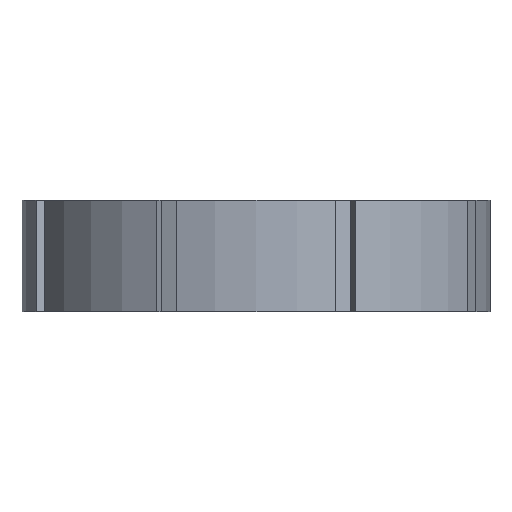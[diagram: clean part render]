
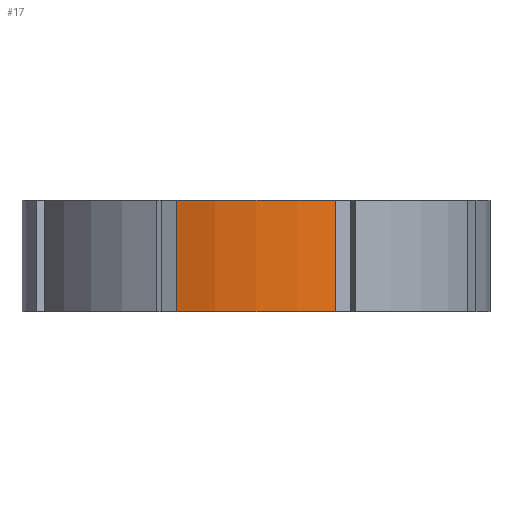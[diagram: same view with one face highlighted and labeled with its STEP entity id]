
A CAD part, left-side view. The second image highlights one B-rep face of the part: STEP entity #17.
In plain terms, the highlighted cylindrical face has radius 67 mm (diameter 134 mm), a partial arc.
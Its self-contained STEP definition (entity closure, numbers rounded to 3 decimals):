
#17 = ADVANCED_FACE('',(#18),#33,.T.);
#18 = FACE_BOUND('',#19,.F.);
#19 = EDGE_LOOP('',(#20,#56,#82,#115));
#20 = ORIENTED_EDGE('',*,*,#21,.F.);
#21 = EDGE_CURVE('',#22,#24,#26,.T.);
#22 = VERTEX_POINT('',#23);
#23 = CARTESIAN_POINT('',(-62.986,22.842,-16.));
#24 = VERTEX_POINT('',#25);
#25 = CARTESIAN_POINT('',(-62.986,-22.842,-16.));
#26 = SURFACE_CURVE('',#27,(#32,#44),.PCURVE_S1.);
#27 = CIRCLE('',#28,67.);
#28 = AXIS2_PLACEMENT_3D('',#29,#30,#31);
#29 = CARTESIAN_POINT('',(0.,0.,-16.));
#30 = DIRECTION('',(0.,0.,1.));
#31 = DIRECTION('',(-0.94,0.341,0.));
#32 = PCURVE('',#33,#38);
#33 = CYLINDRICAL_SURFACE('',#34,67.);
#34 = AXIS2_PLACEMENT_3D('',#35,#36,#37);
#35 = CARTESIAN_POINT('',(0.,0.,-16.));
#36 = DIRECTION('',(-0.,-0.,-1.));
#37 = DIRECTION('',(1.,0.,0.));
#38 = DEFINITIONAL_REPRESENTATION('',(#39),#43);
#39 = LINE('',#40,#41);
#40 = CARTESIAN_POINT('',(-2.794,0.));
#41 = VECTOR('',#42,1.);
#42 = DIRECTION('',(-1.,0.));
#43 = ( GEOMETRIC_REPRESENTATION_CONTEXT(2) 
PARAMETRIC_REPRESENTATION_CONTEXT() REPRESENTATION_CONTEXT('2D SPACE',''
  ) );
#44 = PCURVE('',#45,#50);
#45 = PLANE('',#46);
#46 = AXIS2_PLACEMENT_3D('',#47,#48,#49);
#47 = CARTESIAN_POINT('',(0.,0.,-16.));
#48 = DIRECTION('',(0.,0.,1.));
#49 = DIRECTION('',(1.,0.,-0.));
#50 = DEFINITIONAL_REPRESENTATION('',(#51),#55);
#51 = CIRCLE('',#52,67.);
#52 = AXIS2_PLACEMENT_2D('',#53,#54);
#53 = CARTESIAN_POINT('',(0.,0.));
#54 = DIRECTION('',(-0.94,0.341));
#55 = ( GEOMETRIC_REPRESENTATION_CONTEXT(2) 
PARAMETRIC_REPRESENTATION_CONTEXT() REPRESENTATION_CONTEXT('2D SPACE',''
  ) );
#56 = ORIENTED_EDGE('',*,*,#57,.F.);
#57 = EDGE_CURVE('',#58,#22,#60,.T.);
#58 = VERTEX_POINT('',#59);
#59 = CARTESIAN_POINT('',(-62.986,22.842,16.));
#60 = SURFACE_CURVE('',#61,(#65,#71),.PCURVE_S1.);
#61 = LINE('',#62,#63);
#62 = CARTESIAN_POINT('',(-62.986,22.842,-16.));
#63 = VECTOR('',#64,1.);
#64 = DIRECTION('',(-0.,-0.,-1.));
#65 = PCURVE('',#33,#66);
#66 = DEFINITIONAL_REPRESENTATION('',(#67),#70);
#67 = B_SPLINE_CURVE_WITH_KNOTS('',1,(#68,#69),.UNSPECIFIED.,.F.,.F.,(2,
    2),(-32.,-0.),.PIECEWISE_BEZIER_KNOTS.);
#68 = CARTESIAN_POINT('',(-2.794,-32.));
#69 = CARTESIAN_POINT('',(-2.794,0.));
#70 = ( GEOMETRIC_REPRESENTATION_CONTEXT(2) 
PARAMETRIC_REPRESENTATION_CONTEXT() REPRESENTATION_CONTEXT('2D SPACE',''
  ) );
#71 = PCURVE('',#72,#77);
#72 = PLANE('',#73);
#73 = AXIS2_PLACEMENT_3D('',#74,#75,#76);
#74 = CARTESIAN_POINT('',(-60.092,21.644,-16.));
#75 = DIRECTION('',(0.383,0.924,0.));
#76 = DIRECTION('',(0.,0.,1.));
#77 = DEFINITIONAL_REPRESENTATION('',(#78),#81);
#78 = B_SPLINE_CURVE_WITH_KNOTS('',1,(#79,#80),.UNSPECIFIED.,.F.,.F.,(2,
    2),(-32.,0.),.PIECEWISE_BEZIER_KNOTS.);
#79 = CARTESIAN_POINT('',(32.,-3.133));
#80 = CARTESIAN_POINT('',(0.,-3.133));
#81 = ( GEOMETRIC_REPRESENTATION_CONTEXT(2) 
PARAMETRIC_REPRESENTATION_CONTEXT() REPRESENTATION_CONTEXT('2D SPACE',''
  ) );
#82 = ORIENTED_EDGE('',*,*,#83,.F.);
#83 = EDGE_CURVE('',#84,#58,#86,.T.);
#84 = VERTEX_POINT('',#85);
#85 = CARTESIAN_POINT('',(-62.986,-22.842,16.));
#86 = SURFACE_CURVE('',#87,(#92,#99),.PCURVE_S1.);
#87 = CIRCLE('',#88,67.);
#88 = AXIS2_PLACEMENT_3D('',#89,#90,#91);
#89 = CARTESIAN_POINT('',(0.,0.,16.));
#90 = DIRECTION('',(0.,0.,-1.));
#91 = DIRECTION('',(-0.341,0.94,0.));
#92 = PCURVE('',#33,#93);
#93 = DEFINITIONAL_REPRESENTATION('',(#94),#98);
#94 = LINE('',#95,#96);
#95 = CARTESIAN_POINT('',(-8.202,-32.));
#96 = VECTOR('',#97,1.);
#97 = DIRECTION('',(1.,-0.));
#98 = ( GEOMETRIC_REPRESENTATION_CONTEXT(2) 
PARAMETRIC_REPRESENTATION_CONTEXT() REPRESENTATION_CONTEXT('2D SPACE',''
  ) );
#99 = PCURVE('',#100,#105);
#100 = PLANE('',#101);
#101 = AXIS2_PLACEMENT_3D('',#102,#103,#104);
#102 = CARTESIAN_POINT('',(0.,0.,16.));
#103 = DIRECTION('',(0.,0.,1.));
#104 = DIRECTION('',(1.,0.,-0.));
#105 = DEFINITIONAL_REPRESENTATION('',(#106),#114);
#106 = ( BOUNDED_CURVE() B_SPLINE_CURVE(2,(#107,#108,#109,#110,#111,#112
,#113),.UNSPECIFIED.,.T.,.F.) B_SPLINE_CURVE_WITH_KNOTS((1,2,2,2,2,1),(
    -2.094,0.,2.094,4.189,6.283,
8.378),.UNSPECIFIED.) CURVE() GEOMETRIC_REPRESENTATION_ITEM() 
RATIONAL_B_SPLINE_CURVE((1.,0.5,1.,0.5,1.,0.5,1.)) REPRESENTATION_ITEM(
  '') );
#107 = CARTESIAN_POINT('',(-22.842,62.986));
#108 = CARTESIAN_POINT('',(86.252,102.55));
#109 = CARTESIAN_POINT('',(65.969,-11.711));
#110 = CARTESIAN_POINT('',(45.685,-125.972));
#111 = CARTESIAN_POINT('',(-43.126,-51.275));
#112 = CARTESIAN_POINT('',(-131.937,23.422));
#113 = CARTESIAN_POINT('',(-22.842,62.986));
#114 = ( GEOMETRIC_REPRESENTATION_CONTEXT(2) 
PARAMETRIC_REPRESENTATION_CONTEXT() REPRESENTATION_CONTEXT('2D SPACE',''
  ) );
#115 = ORIENTED_EDGE('',*,*,#116,.T.);
#116 = EDGE_CURVE('',#84,#24,#117,.T.);
#117 = SURFACE_CURVE('',#118,(#122,#128),.PCURVE_S1.);
#118 = LINE('',#119,#120);
#119 = CARTESIAN_POINT('',(-62.986,-22.842,-16.));
#120 = VECTOR('',#121,1.);
#121 = DIRECTION('',(-0.,-0.,-1.));
#122 = PCURVE('',#33,#123);
#123 = DEFINITIONAL_REPRESENTATION('',(#124),#127);
#124 = B_SPLINE_CURVE_WITH_KNOTS('',1,(#125,#126),.UNSPECIFIED.,.F.,.F.,
  (2,2),(-32.,0.),.PIECEWISE_BEZIER_KNOTS.);
#125 = CARTESIAN_POINT('',(-3.49,-32.));
#126 = CARTESIAN_POINT('',(-3.49,0.));
#127 = ( GEOMETRIC_REPRESENTATION_CONTEXT(2) 
PARAMETRIC_REPRESENTATION_CONTEXT() REPRESENTATION_CONTEXT('2D SPACE',''
  ) );
#128 = PCURVE('',#129,#134);
#129 = PLANE('',#130);
#130 = AXIS2_PLACEMENT_3D('',#131,#132,#133);
#131 = CARTESIAN_POINT('',(-60.092,-21.644,-16.));
#132 = DIRECTION('',(-0.383,0.924,0.));
#133 = DIRECTION('',(0.,0.,1.));
#134 = DEFINITIONAL_REPRESENTATION('',(#135),#138);
#135 = B_SPLINE_CURVE_WITH_KNOTS('',1,(#136,#137),.UNSPECIFIED.,.F.,.F.,
  (2,2),(-32.,0.),.PIECEWISE_BEZIER_KNOTS.);
#136 = CARTESIAN_POINT('',(32.,-3.133));
#137 = CARTESIAN_POINT('',(0.,-3.133));
#138 = ( GEOMETRIC_REPRESENTATION_CONTEXT(2) 
PARAMETRIC_REPRESENTATION_CONTEXT() REPRESENTATION_CONTEXT('2D SPACE',''
  ) );
